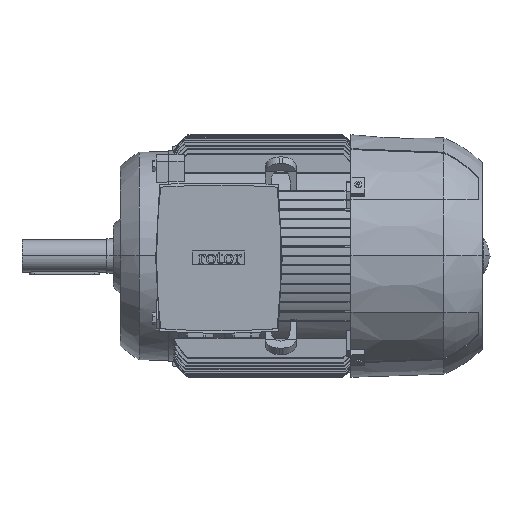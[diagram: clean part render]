
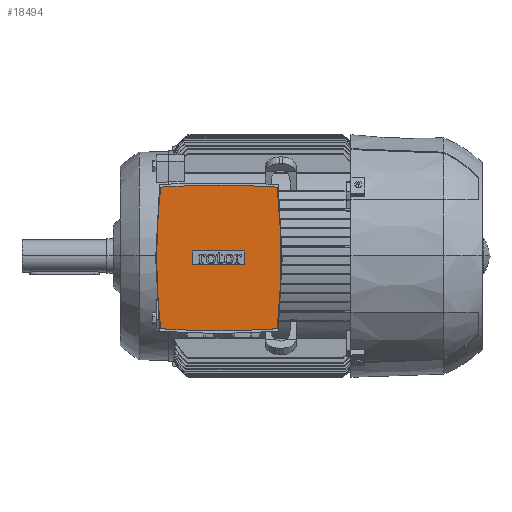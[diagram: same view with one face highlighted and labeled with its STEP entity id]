
A CAD part, top view. The second image highlights one B-rep face of the part: STEP entity #18494.
In plain terms, the highlighted planar face has unit normal (0, 0, 1).
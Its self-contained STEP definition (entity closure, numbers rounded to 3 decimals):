
#247 = DIRECTION ( 'NONE',  ( -1., 0., 0. ) ) ;
#3175 = CIRCLE ( 'NONE', #37574, 836. ) ;
#3553 = LINE ( 'NONE', #14252, #55338 ) ;
#4565 = CIRCLE ( 'NONE', #33696, 836. ) ;
#7020 = CARTESIAN_POINT ( 'NONE',  ( 98.75, -3., 265. ) ) ;
#9528 = CARTESIAN_POINT ( 'NONE',  ( 98.75, -12.05, 265. ) ) ;
#9540 = CARTESIAN_POINT ( 'NONE',  ( 820.5, -3., 265. ) ) ;
#11232 = DIRECTION ( 'NONE',  ( 0., 0., -1. ) ) ;
#11911 = EDGE_LOOP ( 'NONE', ( #47638, #14357, #59610, #22275, #61319 ) ) ;
#12014 = DIRECTION ( 'NONE',  ( 0., 0., 1. ) ) ;
#12486 = CARTESIAN_POINT ( 'NONE',  ( 98.75, 6.05, 265. ) ) ;
#13613 = CARTESIAN_POINT ( 'NONE',  ( -15.5, -3., 265. ) ) ;
#14134 = CARTESIAN_POINT ( 'NONE',  ( 31.25, -12.05, 265. ) ) ;
#14252 = CARTESIAN_POINT ( 'NONE',  ( 31.25, -3., 265. ) ) ;
#14357 = ORIENTED_EDGE ( 'NONE', *, *, #55693, .F. ) ;
#14675 = DIRECTION ( 'NONE',  ( -1., 0., 0. ) ) ;
#14798 = ORIENTED_EDGE ( 'NONE', *, *, #56417, .T. ) ;
#16121 = VERTEX_POINT ( 'NONE', #32208 ) ;
#16775 = CARTESIAN_POINT ( 'NONE',  ( -10.455, 88.704, 265. ) ) ;
#16964 = PLANE ( 'NONE',  #33702 ) ;
#18494 = ADVANCED_FACE ( 'NONE', ( #43395, #43070 ), #16964, .T. ) ;
#19687 = EDGE_CURVE ( 'NONE', #16121, #66619, #29871, .T. ) ;
#21122 = DIRECTION ( 'NONE',  ( 0., 0., -1. ) ) ;
#22275 = ORIENTED_EDGE ( 'NONE', *, *, #52292, .F. ) ;
#22688 = CIRCLE ( 'NONE', #24051, 1019.7 ) ;
#24051 = AXIS2_PLACEMENT_3D ( 'NONE', #42091, #11232, #47348 ) ;
#24762 = DIRECTION ( 'NONE',  ( 0., 1., 0. ) ) ;
#24982 = CARTESIAN_POINT ( 'NONE',  ( 820.5, -3., 265. ) ) ;
#26287 = AXIS2_PLACEMENT_3D ( 'NONE', #52236, #21122, #57505 ) ;
#26846 = AXIS2_PLACEMENT_3D ( 'NONE', #24982, #61369, #30112 ) ;
#28290 = VECTOR ( 'NONE', #43098, 1000. ) ;
#28779 = VERTEX_POINT ( 'NONE', #30078 ) ;
#29871 = CIRCLE ( 'NONE', #26846, 836. ) ;
#30078 = CARTESIAN_POINT ( 'NONE',  ( 140.455, -94.704, 265. ) ) ;
#30112 = DIRECTION ( 'NONE',  ( -1., 0., 0. ) ) ;
#30918 = DIRECTION ( 'NONE',  ( 0., 0., -1. ) ) ;
#31211 = CARTESIAN_POINT ( 'NONE',  ( 65., -12.05, 265. ) ) ;
#32208 = CARTESIAN_POINT ( 'NONE',  ( -10.455, -94.704, 265. ) ) ;
#33696 = AXIS2_PLACEMENT_3D ( 'NONE', #9540, #45637, #14675 ) ;
#33702 = AXIS2_PLACEMENT_3D ( 'NONE', #42926, #12014, #48186 ) ;
#33771 = CARTESIAN_POINT ( 'NONE',  ( 65., 6.05, 265. ) ) ;
#33882 = VERTEX_POINT ( 'NONE', #12486 ) ;
#33971 = VERTEX_POINT ( 'NONE', #54377 ) ;
#35126 = EDGE_CURVE ( 'NONE', #33971, #28779, #3175, .T. ) ;
#36194 = ORIENTED_EDGE ( 'NONE', *, *, #48494, .T. ) ;
#36438 = DIRECTION ( 'NONE',  ( -1., 0., 0. ) ) ;
#37574 = AXIS2_PLACEMENT_3D ( 'NONE', #62194, #30918, #247 ) ;
#42091 = CARTESIAN_POINT ( 'NONE',  ( 65., 922.2, 265. ) ) ;
#42926 = CARTESIAN_POINT ( 'NONE',  ( 65., -3., 265. ) ) ;
#43070 = FACE_BOUND ( 'NONE', #46881, .T. ) ;
#43098 = DIRECTION ( 'NONE',  ( 0., -1., 0. ) ) ;
#43395 = FACE_OUTER_BOUND ( 'NONE', #11911, .T. ) ;
#43426 = VERTEX_POINT ( 'NONE', #14134 ) ;
#43717 = CIRCLE ( 'NONE', #26287, 1019.7 ) ;
#44786 = CARTESIAN_POINT ( 'NONE',  ( 31.25, 6.05, 265. ) ) ;
#45637 = DIRECTION ( 'NONE',  ( 0., 0., -1. ) ) ;
#46335 = VERTEX_POINT ( 'NONE', #16775 ) ;
#46881 = EDGE_LOOP ( 'NONE', ( #14798, #36194, #53561, #62775 ) ) ;
#46927 = VECTOR ( 'NONE', #36438, 1000. ) ;
#47348 = DIRECTION ( 'NONE',  ( -1., 0., 0. ) ) ;
#47638 = ORIENTED_EDGE ( 'NONE', *, *, #61044, .F. ) ;
#48136 = LINE ( 'NONE', #33771, #60351 ) ;
#48186 = DIRECTION ( 'NONE',  ( 1., 0., 0. ) ) ;
#48494 = EDGE_CURVE ( 'NONE', #33882, #49757, #56117, .T. ) ;
#48573 = LINE ( 'NONE', #31211, #46927 ) ;
#49757 = VERTEX_POINT ( 'NONE', #9528 ) ;
#52236 = CARTESIAN_POINT ( 'NONE',  ( 65., -928.2, 265. ) ) ;
#52292 = EDGE_CURVE ( 'NONE', #28779, #16121, #22688, .T. ) ;
#53561 = ORIENTED_EDGE ( 'NONE', *, *, #54540, .T. ) ;
#54377 = CARTESIAN_POINT ( 'NONE',  ( 140.455, 88.704, 265. ) ) ;
#54540 = EDGE_CURVE ( 'NONE', #49757, #43426, #48573, .T. ) ;
#55338 = VECTOR ( 'NONE', #24762, 1000. ) ;
#55693 = EDGE_CURVE ( 'NONE', #66619, #46335, #4565, .T. ) ;
#56117 = LINE ( 'NONE', #7020, #28290 ) ;
#56417 = EDGE_CURVE ( 'NONE', #65195, #33882, #48136, .T. ) ;
#56928 = EDGE_CURVE ( 'NONE', #43426, #65195, #3553, .T. ) ;
#57505 = DIRECTION ( 'NONE',  ( -1., 0., 0. ) ) ;
#59610 = ORIENTED_EDGE ( 'NONE', *, *, #19687, .F. ) ;
#60335 = DIRECTION ( 'NONE',  ( 1., 0., 0. ) ) ;
#60351 = VECTOR ( 'NONE', #60335, 1000. ) ;
#61044 = EDGE_CURVE ( 'NONE', #46335, #33971, #43717, .T. ) ;
#61319 = ORIENTED_EDGE ( 'NONE', *, *, #35126, .F. ) ;
#61369 = DIRECTION ( 'NONE',  ( 0., 0., -1. ) ) ;
#62194 = CARTESIAN_POINT ( 'NONE',  ( -690.5, -3., 265. ) ) ;
#62775 = ORIENTED_EDGE ( 'NONE', *, *, #56928, .T. ) ;
#65195 = VERTEX_POINT ( 'NONE', #44786 ) ;
#66619 = VERTEX_POINT ( 'NONE', #13613 ) ;
